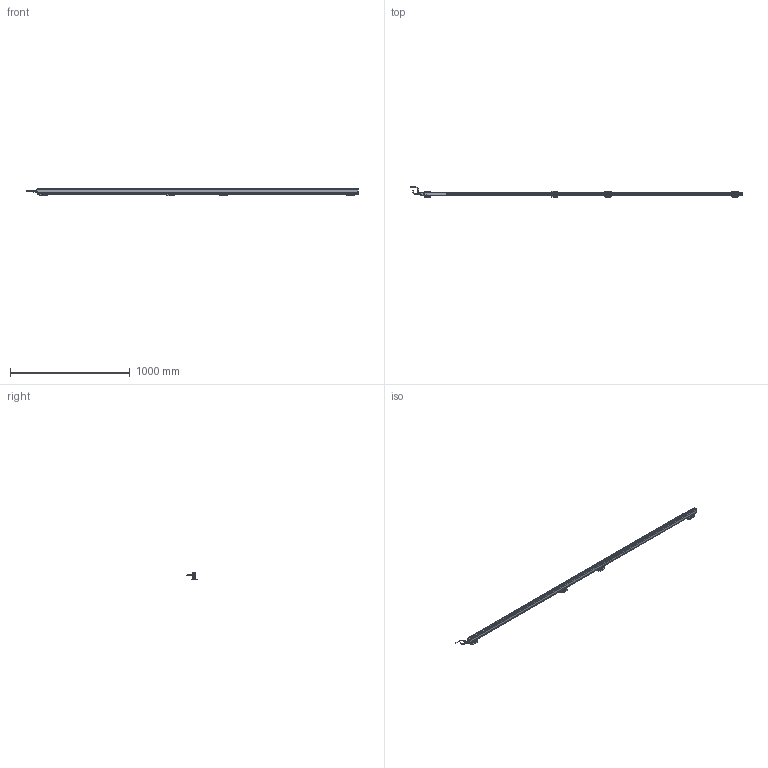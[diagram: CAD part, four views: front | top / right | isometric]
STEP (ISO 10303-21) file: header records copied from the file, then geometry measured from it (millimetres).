
FILE_DESCRIPTION(('Bauteilbeschreibung','HiCAD-Model','HiCAD-STEP-TRANSLATION','Bauteilbeschreibung'),'2;1');
FILE_NAME('PERFORMAXIQEASY_2610-2700_3D.STP','2014-03-05T13:04:08+00:00',('Konstrukteur'),('Konstrukteur Firma GmbH'),' HiCAD 2011, Step 1600.0 ','HiCAD 2011','confidential');
FILE_SCHEMA(('AUTOMOTIVE_DESIGN { 1 2 10303 214 0 1 1 1 }'));
Products named in the file (46): PERFORMAXIQEASY_2610_2700_3D; A_PERFORMAX IQ EASY 2610_2700; A_PERFORMAX IQ EASY SPEED; A_CAP DE; A_CAP CE_5; LED_2C_3MM; LED02C03MM; A519020315_CONNECTOR APPLIANCE; A_INSERT; A_CONTACTS; A_HOUSING; A_PROFILE; A_POTTING; PIN; PIN0; A532000100_BRACKET BARS_ MOUNT; A_SIDE PIECE; A0SIDE0PIECE; A_BRACKET SMALL; A_SLIDE PIECE; A5320001000BRACKET0BARS00MOUNT; A0SIDE0PIECE0; A0SIDE0PIECE1; A0BRACKET0SMALL; A0SLIDE0PIECE; A5320001000BRACKET0BARS00MOUNT0; A0SIDE0PIECE2; A0SIDE0PIECE3; A0BRACKET0SMALL0; A0SLIDE0PIECE0; A0SIDE0PIECE4; A0SIDE0PIECE5; A0BRACKET0SMALL1; A0SLIDE0PIECE1; A_CONNECTOR STRAIGHT; EXTRUDED SOLID_0; DRAAD GEBOGEN; REVOLVED SOLID_1; REVOLVED SOLID_3; A_CONNECTOR ANGLED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
Assembly tree (45 placements, depth 5):
  PERFORMAXIQEASY_2610_2700_3D
    A_PERFORMAX IQ EASY 2610_2700
      A_PERFORMAX IQ EASY SPEED
        A_CAP DE
        A_CAP CE_5
        LED_2C_3MM
        LED02C03MM
        A519020315_CONNECTOR APPLIANCE
          A_INSERT
          A_CONTACTS
          A_HOUSING
        A_PROFILE
        A_POTTING
        PIN
        PIN0
      A532000100_BRACKET BARS_ MOUNT
        A_SIDE PIECE
        A0SIDE0PIECE
        A_BRACKET SMALL
        A_SLIDE PIECE
      A5320001000BRACKET0BARS00MOUNT
        A0SIDE0PIECE0
        A0SIDE0PIECE1
        A0BRACKET0SMALL
        A0SLIDE0PIECE
      A5320001000BRACKET0BARS00MOUNT0
        A0SIDE0PIECE2
        A0SIDE0PIECE3
        A0BRACKET0SMALL0
        A0SLIDE0PIECE0
      A5320001000BRACKET0BARS00MOUNT0
        A0SIDE0PIECE4
        A0SIDE0PIECE5
        A0BRACKET0SMALL1
        A0SLIDE0PIECE1
      A_CONNECTOR STRAIGHT
        EXTRUDED SOLID_0
        DRAAD GEBOGEN
        REVOLVED SOLID_1
        REVOLVED SOLID_3
      A_CONNECTOR ANGLED
        REVOLVED0SOLID01
        EXTRUDED0SOLID00
        C_EDGE SWEEP_0
        REVOLVED SOLID_2
        REVOLVED0SOLID03
Bounding box: 2777.89 x 84.27 x 63.13 mm (x, y, z)
Volume: 2778832.9 mm3; surface area: 676712.6 mm2
Topology: 41 solids, 41 shells, 3447 faces, 8839 edges, 5258 vertices
Faces by surface type: cylinder 1457, plane 1315, sphere 222, torus 205, bspline 168, cone 80
Full cylindrical faces by diameter (mm): 0.8 x10, 1 x5, 2.387 x8, 3 x19, 3.1 x1, 4.2 x2, 5 x4, 5.5 x20, 8 x2, 8.2 x1, 8.4 x2, 8.945 x1, 9 x2, 10.2 x1, 10.5 x3, 11 x1, 12 x3, 12.8 x1, 13.8 x4, 14.5 x3
Entity records: 159221 total; most frequent: CARTESIAN_POINT 37152, DIRECTION 17145, ORIENTED_EDGE 16748, EDGE_CURVE 8374, COLOUR_RGB 7959, PRESENTATION_STYLE_ASSIGNMENT 7959, OVER_RIDING_STYLED_ITEM 7923, CURVE_STYLE 7918
